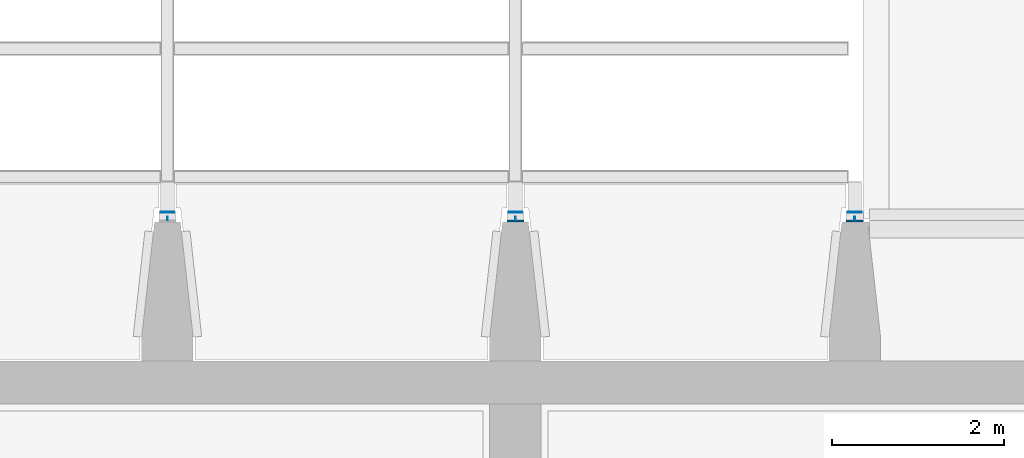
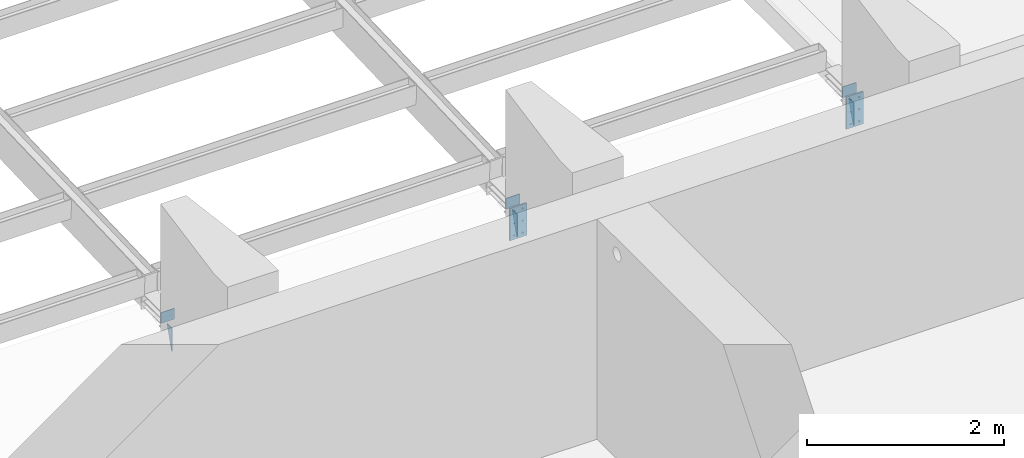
# One storey, part 10 of 31: 8 columns.
"""IFC2X3 building model written with IfcOpenShell, lengths in millimetres."""

from ifc_helpers import new_model, entity, si_unit, converted_unit, derived_unit, direction, frame, frame_2d, origin, origin_2d_with_axis, place, context, subcontext, project, spatial, rectangle, circle, extrude, boolean, clip, halfspace, source, transform, mapped, material, type_object, type_shapes, element, save


model = new_model("IFC2X3")

# Units and contexts
model_context = context("Model", 3, precision=0.01, world=origin(), true_north=direction((6.12303176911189e-17, 1.0)))
body_context = subcontext(model_context, "Body", "Model", "MODEL_VIEW")
ifc_project = project(units=[si_unit("LENGTHUNIT", "METRE", prefix="MILLI"), si_unit("AREAUNIT", "SQUARE_METRE"), si_unit("VOLUMEUNIT", "CUBIC_METRE"), converted_unit("PLANEANGLEUNIT", "DEGREE", entity("IfcRatioMeasure", 0.0174532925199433), si_unit("PLANEANGLEUNIT", "RADIAN"), dimensions=[0, 0, 0, 0, 0, 0, 0]), si_unit("MASSUNIT", "GRAM", prefix="KILO"), derived_unit("MASSDENSITYUNIT", [(si_unit("MASSUNIT", "GRAM", prefix="KILO"), 1), (si_unit("LENGTHUNIT", "METRE"), -3)]), si_unit("TIMEUNIT", "SECOND"), si_unit("FREQUENCYUNIT", "HERTZ"), si_unit("THERMODYNAMICTEMPERATUREUNIT", "DEGREE_CELSIUS"), derived_unit("THERMALTRANSMITTANCEUNIT", [(si_unit("MASSUNIT", "GRAM", prefix="KILO"), 1), (si_unit("THERMODYNAMICTEMPERATUREUNIT", "KELVIN"), -1), (si_unit("TIMEUNIT", "SECOND"), -3)]), derived_unit("VOLUMETRICFLOWRATEUNIT", [(si_unit("LENGTHUNIT", "METRE"), 3), (si_unit("TIMEUNIT", "SECOND"), -1)]), si_unit("ELECTRICCURRENTUNIT", "AMPERE"), si_unit("ELECTRICVOLTAGEUNIT", "VOLT"), si_unit("POWERUNIT", "WATT"), si_unit("FORCEUNIT", "NEWTON", prefix="KILO"), si_unit("ILLUMINANCEUNIT", "LUX"), si_unit("LUMINOUSFLUXUNIT", "LUMEN"), si_unit("LUMINOUSINTENSITYUNIT", "CANDELA"), derived_unit("USERDEFINED", [(si_unit("MASSUNIT", "GRAM", prefix="KILO"), -1), (si_unit("LENGTHUNIT", "METRE"), -2), (si_unit("TIMEUNIT", "SECOND"), 3), (si_unit("LUMINOUSFLUXUNIT", "LUMEN"), 1)]), derived_unit("LINEARVELOCITYUNIT", [(si_unit("LENGTHUNIT", "METRE"), 1), (si_unit("TIMEUNIT", "SECOND"), -1)]), si_unit("PRESSUREUNIT", "PASCAL"), derived_unit("USERDEFINED", [(si_unit("LENGTHUNIT", "METRE"), -2), (si_unit("MASSUNIT", "GRAM", prefix="KILO"), 1), (si_unit("TIMEUNIT", "SECOND"), -2)])], contexts=[model_context])

# Site, building, storey
site_placement = place(None, origin())
site = spatial("IfcSite", under=ifc_project, at=site_placement, Name="Default", CompositionType="ELEMENT")
building_placement = place(site_placement, origin())
building = spatial("IfcBuilding", under=site, at=building_placement, Name="niet gebruiken", CompositionType="ELEMENT")
storey_placement = place(building_placement, frame((0.0, 0.0, 12000.0)))
storey = spatial("IfcBuildingStorey", under=building, at=storey_placement, Name="03 derde verdieping", CompositionType="ELEMENT", Elevation=12000.0)

# Columns
ifc_material = material(Name="NLRS_h2_staal")
column_type_1 = type_object("IfcColumnType", Name="kolom stripstaal RECT_160x10", PredefinedType="COLUMN", material=ifc_material)
shared_shape_1 = source(origin(), body_context, "Body", "SweptSolid", [
    extrude(rectangle(XDim=10.0, YDim=160.0, at=origin_2d_with_axis()), frame((0.0, 0.0, 13333.0), z_axis=(0.0, 0.0, 1.0), x_axis=(0.0, -1.0, 0.0)), (0.0, 0.0, 1.0), 134.000000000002),
])
type_shapes(column_type_1, [shared_shape_1])
for number, where, name in (
    (1, (143750.0, 34965.0, -12000.0), "NLRS_28.11_SCO_TLB_stalen kolom stripstaal_gen:kolom stripstaal RECT_160x10"),
    (2, (147800.0, 34965.0, -12000.0), "NLRS_28.11_SCO_TLB_stalen kolom stripstaal_gen:kolom stripstaal RECT_160x10"),
    (3, (151750.0, 34965.0, -12000.0), "NLRS_28.11_SCO_TLB_stalen kolom stripstaal_gen:kolom stripstaal RECT_160x10"),
):
    element("IfcColumn", number, at=place(storey_placement, frame(where)), inside=storey, type_object=column_type_1, material=ifc_material, Name=name, ObjectType="kolom stripstaal RECT_160x10", context=body_context, shape_type="MappedRepresentation", body=[
        mapped(shared_shape_1, transform((0.0, 0.0, 0.0), scale=1.0)),
    ])
column_type_2 = type_object("IfcColumnType", Name="kolom stripstaal RECT_100x10", PredefinedType="COLUMN", material=ifc_material)
shared_shape_2 = source(origin(), body_context, "Body", "Clipping", [
    clip(extrude(rectangle(XDim=9.99999999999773, YDim=99.9999999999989, at=frame_2d((0.0, -2.16715534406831e-12), x_axis=(1.0, 0.0))), frame((143750.0, 34920.0, 13015.0)), (0.0, 0.0, 1.0), 285.0), halfspace(frame((143465.0, 34880.0, 13015.0), z_axis=(0.0, 0.950397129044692, -0.311039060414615), x_axis=(1.0, 0.0, 0.0)), False)),
])
type_shapes(column_type_2, [shared_shape_2])
column_1_placement = place(storey_placement, frame((0.0, 0.0, -12000.0)))
element("IfcColumn", 4, at=column_1_placement, inside=storey, type_object=column_type_2, material=ifc_material, Name="NLRS_28.11_SCO_TLB_stalen kolom stripstaal_gen:kolom stripstaal RECT_100x10", ObjectType="kolom stripstaal RECT_100x10", context=body_context, shape_type="MappedRepresentation", body=[
    mapped(shared_shape_2, transform((0.0, 0.0, 0.0), scale=1.0)),
])
column_type_3 = type_object("IfcColumnType", Name="kolom stripstaal RECT_200x20", PredefinedType="COLUMN", material=ifc_material)
shared_shape_3 = source(origin(), body_context, "Body", "CSG", [
    boolean("DIFFERENCE", boolean("DIFFERENCE", boolean("DIFFERENCE", boolean("DIFFERENCE", boolean("DIFFERENCE", boolean("DIFFERENCE", extrude(rectangle(XDim=19.9999999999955, YDim=200.000000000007, at=frame_2d((-2.16626716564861e-12, 1.73301373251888e-11), x_axis=(1.0, 0.0))), frame((147800.0, 34860.0, 13015.0), z_axis=(0.0, 0.0, 1.0), x_axis=(0.0, -1.0, 0.0)), (0.0, 0.0, 1.0), 400.0), extrude(circle(Radius=9.0, at=origin_2d_with_axis()), frame((147850.0, 34870.0, 13065.0), z_axis=(0.0, -1.0, 0.0), x_axis=(1.0, 0.0, 0.0)), (0.0, 0.0, 1.0), 19.9999999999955)), extrude(circle(Radius=9.0, at=origin_2d_with_axis()), frame((147750.0, 34870.0, 13065.0), z_axis=(0.0, -1.0, 0.0), x_axis=(1.0, 0.0, 0.0)), (0.0, 0.0, 1.0), 19.9999999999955)), extrude(circle(Radius=9.0, at=origin_2d_with_axis()), frame((147850.0, 34870.0, 13215.0), z_axis=(0.0, -1.0, 0.0), x_axis=(1.0, 0.0, 0.0)), (0.0, 0.0, 1.0), 19.9999999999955)), extrude(circle(Radius=9.0, at=origin_2d_with_axis()), frame((147750.0, 34870.0, 13215.0), z_axis=(0.0, -1.0, 0.0), x_axis=(1.0, 0.0, 0.0)), (0.0, 0.0, 1.0), 19.9999999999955)), extrude(circle(Radius=9.0, at=origin_2d_with_axis()), frame((147850.0, 34870.0, 13365.0), z_axis=(0.0, -1.0, 0.0), x_axis=(1.0, 0.0, 0.0)), (0.0, 0.0, 1.0), 19.9999999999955)), extrude(circle(Radius=9.0, at=origin_2d_with_axis()), frame((147750.0, 34850.0, 13365.0), z_axis=(0.0, 1.0, 0.0), x_axis=(1.0, 0.0, 0.0)), (0.0, 0.0, 1.0), 19.9999999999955)),
])
type_shapes(column_type_3, [shared_shape_3])
column_2_placement = place(storey_placement, frame((0.0, 0.0, -12000.0)))
element("IfcColumn", 5, at=column_2_placement, inside=storey, type_object=column_type_3, material=ifc_material, Name="NLRS_28.11_SCO_TLB_stalen kolom stripstaal_gen:kolom stripstaal RECT_200x20", ObjectType="kolom stripstaal RECT_200x20", context=body_context, shape_type="MappedRepresentation", body=[
    mapped(shared_shape_3, transform((0.0, 0.0, 0.0), scale=1.0)),
])
column_type_4 = type_object("IfcColumnType", Name="kolom stripstaal RECT_100x10", PredefinedType="COLUMN", material=ifc_material)
shared_shape_4 = source(origin(), body_context, "Body", "Clipping", [
    clip(extrude(rectangle(XDim=9.99999999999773, YDim=99.9999999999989, at=frame_2d((0.0, -2.16715534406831e-12), x_axis=(1.0, 0.0))), frame((147800.0, 34920.0, 13015.0)), (0.0, 0.0, 1.0), 285.0), halfspace(frame((147515.0, 34880.0, 13015.0), z_axis=(0.0, 0.950397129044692, -0.311039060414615), x_axis=(1.0, 0.0, 0.0)), False)),
])
type_shapes(column_type_4, [shared_shape_4])
column_3_placement = place(storey_placement, frame((0.0, 0.0, -12000.0)))
element("IfcColumn", 6, at=column_3_placement, inside=storey, type_object=column_type_4, material=ifc_material, Name="NLRS_28.11_SCO_TLB_stalen kolom stripstaal_gen:kolom stripstaal RECT_100x10", ObjectType="kolom stripstaal RECT_100x10", context=body_context, shape_type="MappedRepresentation", body=[
    mapped(shared_shape_4, transform((0.0, 0.0, 0.0), scale=1.0)),
])
column_type_5 = type_object("IfcColumnType", Name="kolom stripstaal RECT_200x20", PredefinedType="COLUMN", material=ifc_material)
shared_shape_5 = source(origin(), body_context, "Body", "CSG", [
    boolean("DIFFERENCE", boolean("DIFFERENCE", boolean("DIFFERENCE", boolean("DIFFERENCE", boolean("DIFFERENCE", boolean("DIFFERENCE", extrude(rectangle(XDim=19.9999999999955, YDim=200.000000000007, at=frame_2d((-2.16626716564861e-12, 0.0), x_axis=(1.0, 0.0))), frame((151750.0, 34860.0, 13015.0), z_axis=(0.0, 0.0, 1.0), x_axis=(0.0, -1.0, 0.0)), (0.0, 0.0, 1.0), 400.0), extrude(circle(Radius=9.0, at=origin_2d_with_axis()), frame((151800.0, 34870.0, 13065.0), z_axis=(0.0, -1.0, 0.0), x_axis=(1.0, 0.0, 0.0)), (0.0, 0.0, 1.0), 19.9999999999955)), extrude(circle(Radius=9.0, at=origin_2d_with_axis()), frame((151700.0, 34870.0, 13065.0), z_axis=(0.0, -1.0, 0.0), x_axis=(1.0, 0.0, 0.0)), (0.0, 0.0, 1.0), 19.9999999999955)), extrude(circle(Radius=9.0, at=origin_2d_with_axis()), frame((151800.0, 34870.0, 13215.0), z_axis=(0.0, -1.0, 0.0), x_axis=(1.0, 0.0, 0.0)), (0.0, 0.0, 1.0), 19.9999999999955)), extrude(circle(Radius=9.0, at=origin_2d_with_axis()), frame((151700.0, 34870.0, 13215.0), z_axis=(0.0, -1.0, 0.0), x_axis=(1.0, 0.0, 0.0)), (0.0, 0.0, 1.0), 19.9999999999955)), extrude(circle(Radius=9.0, at=origin_2d_with_axis()), frame((151800.0, 34870.0, 13365.0), z_axis=(0.0, -1.0, 0.0), x_axis=(1.0, 0.0, 0.0)), (0.0, 0.0, 1.0), 19.9999999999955)), extrude(circle(Radius=9.0, at=origin_2d_with_axis()), frame((151700.0, 34850.0, 13365.0), z_axis=(0.0, 1.0, 0.0), x_axis=(1.0, 0.0, 0.0)), (0.0, 0.0, 1.0), 19.9999999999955)),
])
type_shapes(column_type_5, [shared_shape_5])
column_4_placement = place(storey_placement, frame((0.0, 0.0, -12000.0)))
element("IfcColumn", 7, at=column_4_placement, inside=storey, type_object=column_type_5, material=ifc_material, Name="NLRS_28.11_SCO_TLB_stalen kolom stripstaal_gen:kolom stripstaal RECT_200x20", ObjectType="kolom stripstaal RECT_200x20", context=body_context, shape_type="MappedRepresentation", body=[
    mapped(shared_shape_5, transform((0.0, 0.0, 0.0), scale=1.0)),
])
column_type_6 = type_object("IfcColumnType", Name="kolom stripstaal RECT_100x10", PredefinedType="COLUMN", material=ifc_material)
shared_shape_6 = source(origin(), body_context, "Body", "Clipping", [
    clip(extrude(rectangle(XDim=9.99999999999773, YDim=99.9999999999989, at=frame_2d((0.0, 2.16715534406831e-12), x_axis=(1.0, 0.0))), frame((151750.0, 34920.0, 13015.0)), (0.0, 0.0, 1.0), 285.0), halfspace(frame((151465.0, 34880.0, 13015.0), z_axis=(0.0, 0.950397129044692, -0.311039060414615), x_axis=(1.0, 0.0, 0.0)), False)),
])
type_shapes(column_type_6, [shared_shape_6])
column_5_placement = place(storey_placement, frame((0.0, 0.0, -12000.0)))
element("IfcColumn", 8, at=column_5_placement, inside=storey, type_object=column_type_6, material=ifc_material, Name="NLRS_28.11_SCO_TLB_stalen kolom stripstaal_gen:kolom stripstaal RECT_100x10", ObjectType="kolom stripstaal RECT_100x10", context=body_context, shape_type="MappedRepresentation", body=[
    mapped(shared_shape_6, transform((0.0, 0.0, 0.0), scale=1.0)),
])

save(model, "model.ifc")
